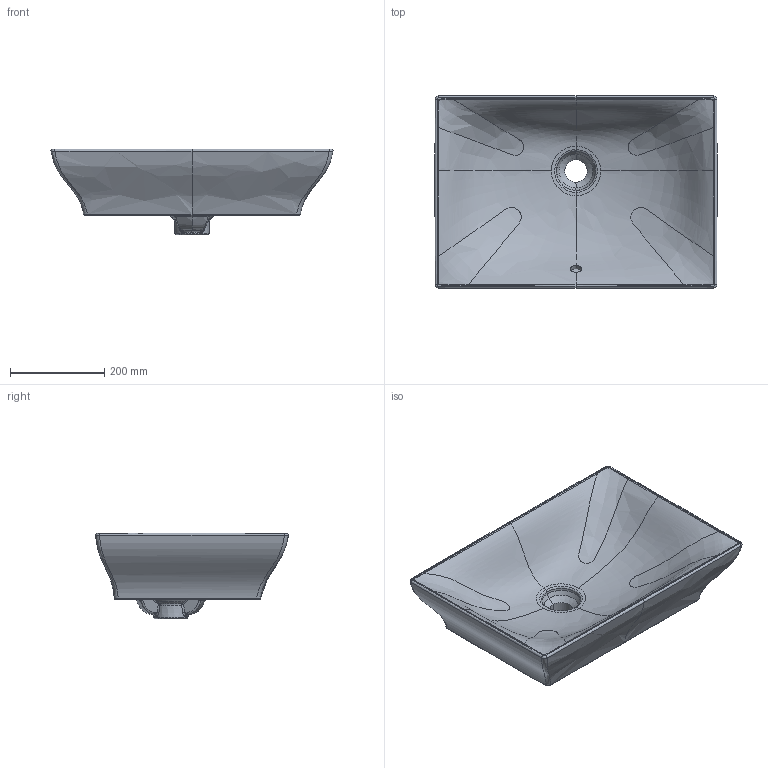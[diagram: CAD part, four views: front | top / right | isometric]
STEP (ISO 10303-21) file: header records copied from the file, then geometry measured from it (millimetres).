
FILE_DESCRIPTION(/* description */ (''),/* implementation_level */ '2;1');
FILE_NAME(/* name */ '4A0160_La_Belle_AWT.stp',/* time_stamp */ '2018-11-26T08:17:00+01:00',/* author */ (''),/* organization */ (''),/* preprocessor_version */ 'ST-DEVELOPER v16',/* originating_system */ 'SIEMENS PLM Software NX 10.0',/* authorisation */ '');
FILE_SCHEMA (('AUTOMOTIVE_DESIGN { 1 0 10303 214 3 1 1 1 }'));
Products named in the file (1): Sier2254175Asdob
Bounding box: 598.55 x 409.29 x 181.56 mm (x, y, z)
Volume: 12603390.3 mm3; surface area: 728598.5 mm2
Topology: 1 solids, 1 shells, 272 faces, 746 edges, 455 vertices
Faces by surface type: bspline 178, cylinder 32, plane 26, sphere 16, extrusion 12, cone 6, torus 2
Entity records: 53080 total; most frequent: CARTESIAN_POINT 48049, ORIENTED_EDGE 1450, EDGE_CURVE 725, DIRECTION 513, VERTEX_POINT 455, B_SPLINE_CURVE_WITH_KNOTS 419, EDGE_LOOP 274, ADVANCED_FACE 272
